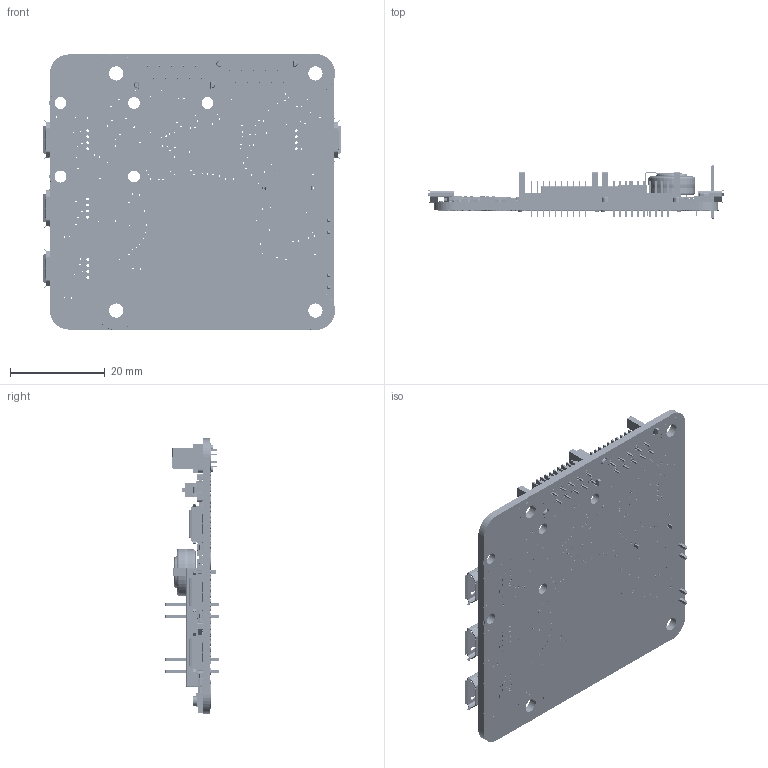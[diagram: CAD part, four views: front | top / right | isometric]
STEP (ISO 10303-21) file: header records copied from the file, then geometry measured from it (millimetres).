
FILE_DESCRIPTION (( 'STEP AP214' ), '1' );
FILE_NAME ('yoctohub-wifi_mini.STEP', '2014-01-28T10:29:41', ( 'martinm' ), ( '' ), 'SwSTEP 2.0', 'SolidWorks 2008', '' );
FILE_SCHEMA (( 'AUTOMOTIVE_DESIGN' ));
Length unit declared in the file: millimetre
Products named in the file (46): PCB; C1; C12; C20; C22; C23; C29; C31; C94; C96; C97; CPU1; D4; D8; FLASH1; IO1; LED4; P2; P4; R1; R7; R9; R12; R16; R17; R20; R22; R28; R30; R32; R62; R94; REG3; RTC1; SW1; T5; T6; T94; USB1; WF1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
Assembly tree (113 placements, depth 2):
  yoctohub-wifi_mini
    c7  x2
    C12
    R32  x10
    R94  x8
    REG3  x3
    RTC1
    USB1  x4
    C29  x10
    T6  x5
    D8  x4
    R62  x3
    T5
    C94  x8
    C96  x3
    C23  x2
    C22
    R9  x3
    R12
    R30  x2
    LED4  x4
    P4  x2
    Ybutton  x3
    PCB
    IO1
    R1
    C97  x3
    T94  x3
    sens1
    CPU1
    SW1
    WF1
    R20
    R22  x3
    C20  x2
    C31
    FLASH1
    R7
    R16  x2
    R17
    C1
    P2  x2
    R28
    D4
    YLED
    Y1
Bounding box: 62.65 x 11.5 x 58.25 mm (x, y, z)
Volume: 8504.8 mm3; surface area: 13776.7 mm2
Topology: 161 solids, 161 shells, 17539 faces, 45463 edges, 29504 vertices
Faces by surface type: plane 11651, cylinder 4045, bspline 1528, sphere 272, torus 35, cone 8
Entity records: 522018 total; most frequent: CARTESIAN_POINT 124207, ORIENTED_EDGE 59142, DIRECTION 54585, EDGE_CURVE 29571, LINE 21601, VECTOR 21601, VERTEX_POINT 19459, AXIS2_PLACEMENT_3D 16492
